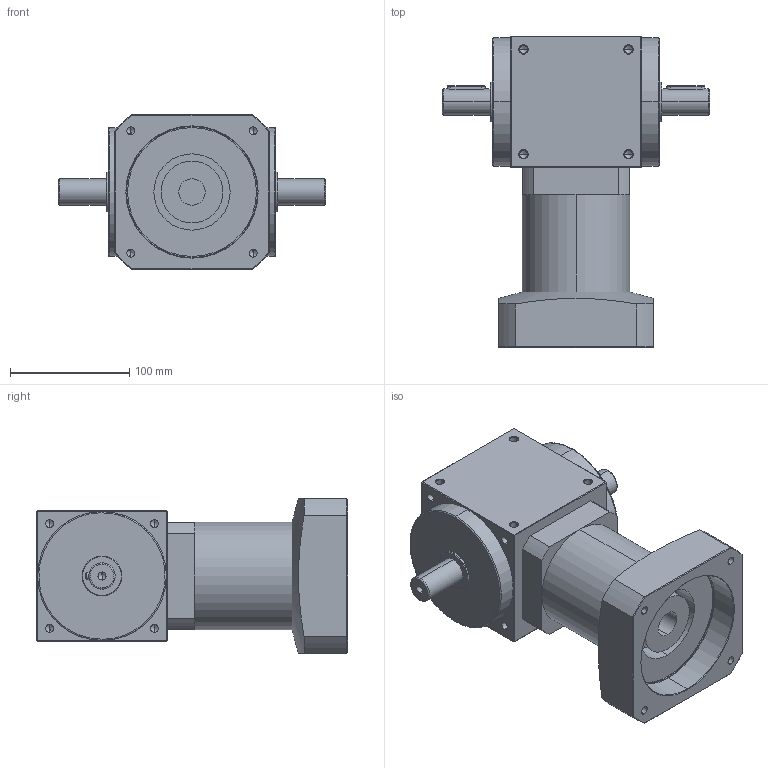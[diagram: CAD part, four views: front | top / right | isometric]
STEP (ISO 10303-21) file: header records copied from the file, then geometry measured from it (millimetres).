
FILE_DESCRIPTION (( 'STEP AP214' ), '1' );
FILE_NAME ('AT110-FL1-L2 -22-110-145-M8.STEP', '2020-11-11T01:53:39', ( '微软用户' ), ( '微软中国' ), 'SwSTEP 2.0', 'SolidWorks 2014', '' );
FILE_SCHEMA (( 'AUTOMOTIVE_DESIGN' ));
Length unit declared in the file: millimetre
Products named in the file (2): AT110-FL1-L2 -22-110-145-M8
Bounding box: 224 x 261 x 130 mm (x, y, z)
Volume: 2788195.3 mm3; surface area: 186095 mm2
Topology: 2 solids, 2 shells, 278 faces, 700 edges, 390 vertices
Faces by surface type: cylinder 128, cone 76, plane 66, bspline 8
Entity records: 11015 total; most frequent: CARTESIAN_POINT 2008, ORIENTED_EDGE 1296, DIRECTION 1268, EDGE_CURVE 648, AXIS2_PLACEMENT_3D 486, VERTEX_POINT 390, EDGE_LOOP 318, VECTOR 296
